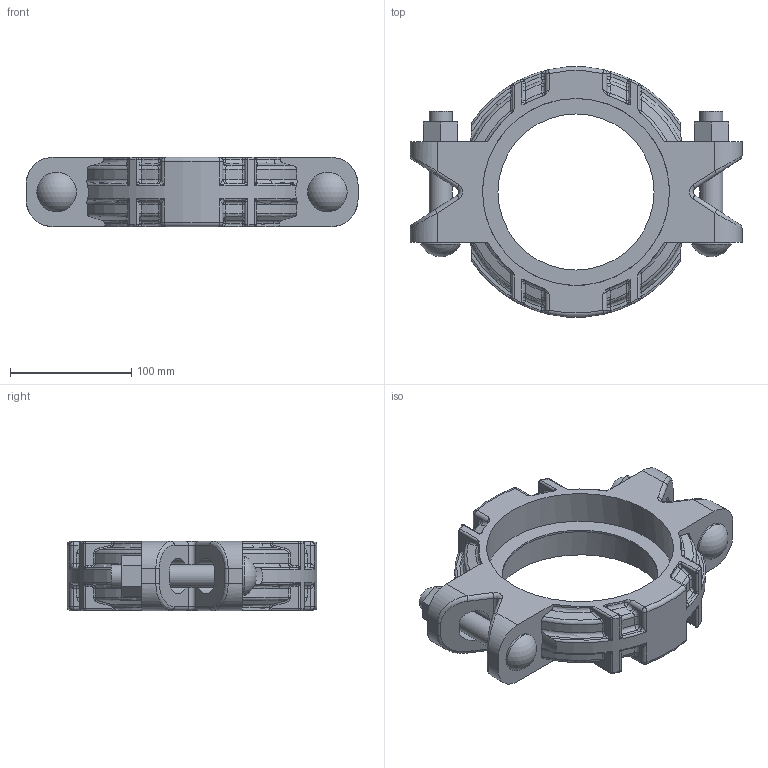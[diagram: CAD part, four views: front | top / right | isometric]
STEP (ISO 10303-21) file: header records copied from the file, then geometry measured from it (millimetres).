
FILE_DESCRIPTION(/* description */ ('VIC COUPLING FLEXIBLE STYLE XL77','CAx-IF Rec.Pracs.---Representation and Presentation of Product Manufacturing Information (PMI)---4.0---2014-10-13'),/* implementation_level */ '2;1');
FILE_NAME(/* name */ 'C:\Users\kkamble\AppData\Roaming\Autodesk\ApplicationPlugins\Back Up\Victaulic_IPS-XL_Coupling Flexible Transition_Style XL77 (XLGxOGS)\Victaulic_IPS-XL_Coupling Flexible Transition_Style XL77 (XLGxOGS)_5 (125).stp',/* time_stamp */ '2020-08-05T13:48:22+05:00',/* author */ ('jheald'),/* organization */ ('Victaulic'),/* preprocessor_version */ 'ST-DEVELOPER v17.2',/* originating_system */ 'Autodesk Inventor 2019',/* authorisation */ '');
FILE_SCHEMA (('AP242_MANAGED_MODEL_BASED_3D_ENGINEERING_MIM_LF { 1 0 10303 442 1 1 4 }'));
Length unit declared in the file: inch
Products named in the file (1): XL77-05.0
Bounding box: 273.48 x 205.93 x 57.16 mm (x, y, z)
Volume: 1013889.7 mm3; surface area: 146111.2 mm2
Topology: 1 solids, 1 shells, 579 faces, 1382 edges, 793 vertices
Faces by surface type: cylinder 189, bspline 152, torus 96, plane 84, sphere 42, cone 16
Full cylindrical faces by diameter (mm): 19.05 x4, 32.537 x2, 128.588 x1, 141.3 x1, 154 x1
Entity records: 22335 total; most frequent: CARTESIAN_POINT 9167, ORIENTED_EDGE 2716, DIRECTION 2489, EDGE_CURVE 1358, AXIS2_PLACEMENT_3D 1054, VERTEX_POINT 793, EDGE_LOOP 597, CIRCLE 589
